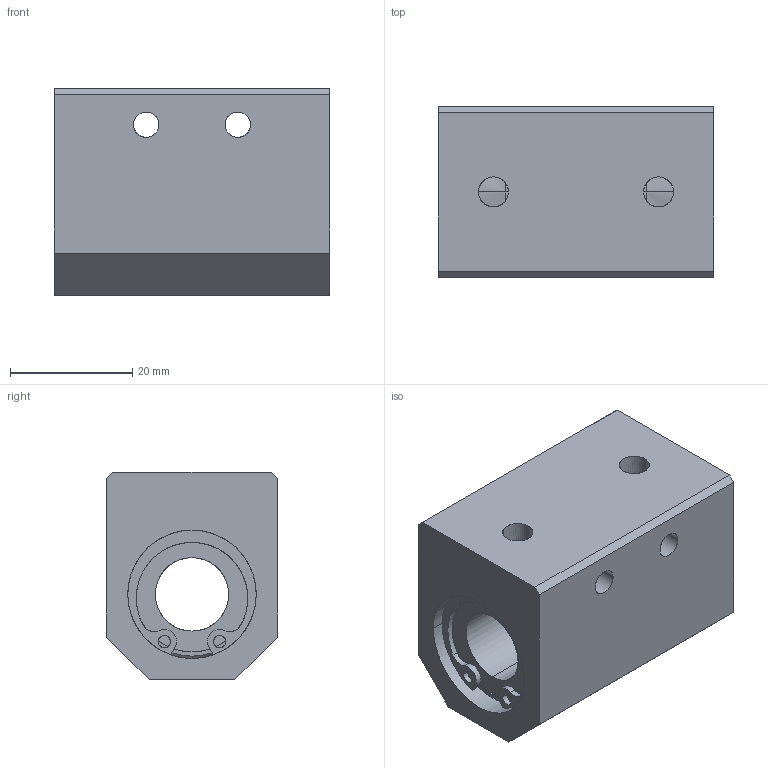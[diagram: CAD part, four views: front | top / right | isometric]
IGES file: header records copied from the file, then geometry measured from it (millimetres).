
Global section: file name: No Iges File Name specified; native system: AutoDesk Inventor R10; preprocessor: AutoDesk Inventor Iges Exporter R10; author: No Author specified; organization: No Organization specified; date: 20101216.151816; units: millimetre
Bounding box: 45 x 28 x 34 mm (x, y, z)
Surface area: 10632.1 mm2 (no closed solid volume)
Topology: 0 solids, 0 shells, 102 faces, 802 edges, 802 vertices
Faces by surface type: bspline 102
